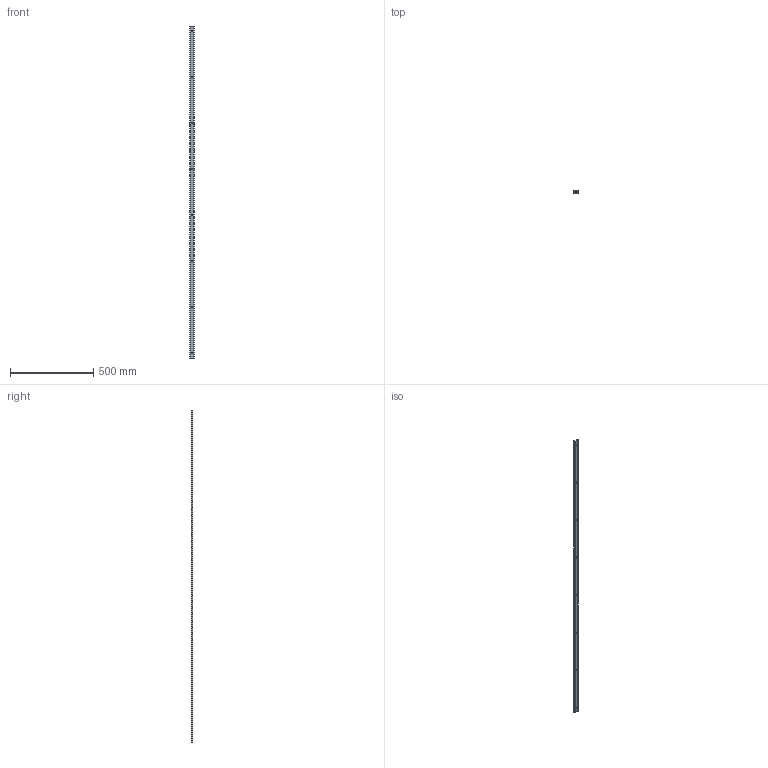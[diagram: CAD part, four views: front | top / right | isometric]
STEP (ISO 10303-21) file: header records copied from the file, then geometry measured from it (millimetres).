
FILE_DESCRIPTION (( 'STEP AP214' ), '1' );
FILE_NAME ('C-skena 2000mm.STEP', '2014-04-10T14:30:08', ( '' ), ( '' ), 'SwSTEP 2.0', 'SolidWorks 2012', '' );
FILE_SCHEMA (( 'AUTOMOTIVE_DESIGN' ));
Length unit declared in the file: millimetre
Products named in the file (1): C-skena 2000mm
Bounding box: 27 x 12 x 2000 mm (x, y, z)
Volume: 217444.5 mm3; surface area: 226197.9 mm2
Topology: 1 solids, 1 shells, 38 faces, 108 edges, 72 vertices
Faces by surface type: cone 16, plane 14, cylinder 8
Entity records: 1326 total; most frequent: DIRECTION 234, CARTESIAN_POINT 219, ORIENTED_EDGE 216, EDGE_CURVE 108, AXIS2_PLACEMENT_3D 87, VERTEX_POINT 72, VECTOR 60, LINE 60
